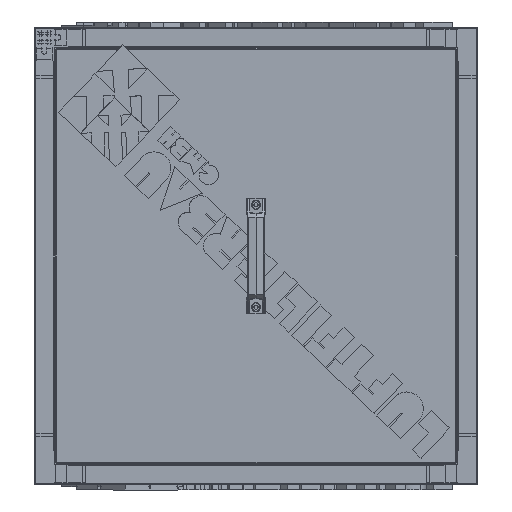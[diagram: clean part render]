
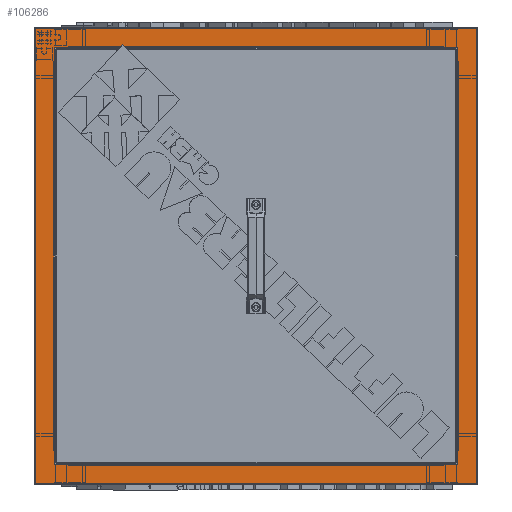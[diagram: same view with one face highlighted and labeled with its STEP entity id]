
A CAD part, front view. The second image highlights one B-rep face of the part: STEP entity #106286.
In plain terms, the highlighted planar face has unit normal (0, -1, 0).
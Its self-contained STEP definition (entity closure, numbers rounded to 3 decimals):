
#5197=FACE_BOUND('',#35395,.T.);
#7515=LINE('',#159254,#18467);
#7523=LINE('',#159272,#18475);
#8281=LINE('',#161285,#19233);
#8282=LINE('',#161287,#19234);
#8283=LINE('',#161289,#19235);
#8284=LINE('',#161290,#19236);
#8285=LINE('',#161292,#19237);
#8286=LINE('',#161294,#19238);
#8287=LINE('',#161296,#19239);
#8288=LINE('',#161298,#19240);
#8289=LINE('',#161300,#19241);
#8290=LINE('',#161302,#19242);
#8291=LINE('',#161304,#19243);
#8292=LINE('',#161306,#19244);
#8293=LINE('',#161308,#19245);
#8294=LINE('',#161310,#19246);
#8295=LINE('',#161312,#19247);
#8296=LINE('',#161314,#19248);
#8297=LINE('',#161316,#19249);
#8298=LINE('',#161318,#19250);
#8299=LINE('',#161320,#19251);
#8300=LINE('',#161322,#19252);
#8301=LINE('',#161324,#19253);
#8302=LINE('',#161326,#19254);
#8303=LINE('',#161328,#19255);
#8304=LINE('',#161330,#19256);
#8305=LINE('',#161331,#19257);
#18467=VECTOR('',#127323,10.);
#18475=VECTOR('',#127335,10.);
#19233=VECTOR('',#128611,10.);
#19234=VECTOR('',#128612,10.);
#19235=VECTOR('',#128613,10.);
#19236=VECTOR('',#128614,10.);
#19237=VECTOR('',#128615,10.);
#19238=VECTOR('',#128616,27.5);
#19239=VECTOR('',#128617,21.);
#19240=VECTOR('',#128618,21.);
#19241=VECTOR('',#128619,27.5);
#19242=VECTOR('',#128620,10.);
#19243=VECTOR('',#128621,27.5);
#19244=VECTOR('',#128622,21.);
#19245=VECTOR('',#128623,21.);
#19246=VECTOR('',#128624,27.5);
#19247=VECTOR('',#128625,10.);
#19248=VECTOR('',#128626,27.5);
#19249=VECTOR('',#128627,21.);
#19250=VECTOR('',#128628,21.);
#19251=VECTOR('',#128629,27.5);
#19252=VECTOR('',#128630,10.);
#19253=VECTOR('',#128631,27.5);
#19254=VECTOR('',#128632,21.);
#19255=VECTOR('',#128633,21.);
#19256=VECTOR('',#128634,27.5);
#19257=VECTOR('',#128635,10.);
#29412=FACE_OUTER_BOUND('',#35394,.T.);
#35394=EDGE_LOOP('',(#73592,#73593,#73594,#73595));
#35395=EDGE_LOOP('',(#73596,#73597,#73598,#73599,#73600,#73601,#73602,#73603,
#73604,#73605,#73606,#73607,#73608,#73609,#73610,#73611,#73612,#73613,#73614,
#73615,#73616,#73617,#73618));
#43043=VERTEX_POINT('',#159252);
#43044=VERTEX_POINT('',#159253);
#43052=VERTEX_POINT('',#159271);
#43591=VERTEX_POINT('',#161283);
#43592=VERTEX_POINT('',#161284);
#43593=VERTEX_POINT('',#161286);
#43594=VERTEX_POINT('',#161288);
#43595=VERTEX_POINT('',#161291);
#43596=VERTEX_POINT('',#161293);
#43597=VERTEX_POINT('',#161295);
#43598=VERTEX_POINT('',#161297);
#43599=VERTEX_POINT('',#161299);
#43600=VERTEX_POINT('',#161301);
#43601=VERTEX_POINT('',#161303);
#43602=VERTEX_POINT('',#161305);
#43603=VERTEX_POINT('',#161307);
#43604=VERTEX_POINT('',#161309);
#43605=VERTEX_POINT('',#161311);
#43606=VERTEX_POINT('',#161313);
#43607=VERTEX_POINT('',#161315);
#43608=VERTEX_POINT('',#161317);
#43609=VERTEX_POINT('',#161319);
#43610=VERTEX_POINT('',#161321);
#43611=VERTEX_POINT('',#161323);
#43612=VERTEX_POINT('',#161325);
#43613=VERTEX_POINT('',#161327);
#43614=VERTEX_POINT('',#161329);
#53669=EDGE_CURVE('',#43043,#43044,#7515,.T.);
#53678=EDGE_CURVE('',#43044,#43052,#7523,.T.);
#54492=EDGE_CURVE('',#43591,#43592,#8281,.T.);
#54493=EDGE_CURVE('',#43593,#43592,#8282,.T.);
#54494=EDGE_CURVE('',#43594,#43593,#8283,.T.);
#54495=EDGE_CURVE('',#43594,#43591,#8284,.T.);
#54496=EDGE_CURVE('',#43595,#43052,#8285,.T.);
#54497=EDGE_CURVE('',#43595,#43596,#8286,.T.);
#54498=EDGE_CURVE('',#43597,#43596,#8287,.T.);
#54499=EDGE_CURVE('',#43598,#43597,#8288,.T.);
#54500=EDGE_CURVE('',#43598,#43599,#8289,.T.);
#54501=EDGE_CURVE('',#43600,#43599,#8290,.T.);
#54502=EDGE_CURVE('',#43600,#43601,#8291,.T.);
#54503=EDGE_CURVE('',#43602,#43601,#8292,.T.);
#54504=EDGE_CURVE('',#43603,#43602,#8293,.T.);
#54505=EDGE_CURVE('',#43604,#43603,#8294,.T.);
#54506=EDGE_CURVE('',#43605,#43604,#8295,.T.);
#54507=EDGE_CURVE('',#43605,#43606,#8296,.T.);
#54508=EDGE_CURVE('',#43607,#43606,#8297,.T.);
#54509=EDGE_CURVE('',#43608,#43607,#8298,.T.);
#54510=EDGE_CURVE('',#43608,#43609,#8299,.T.);
#54511=EDGE_CURVE('',#43610,#43609,#8300,.T.);
#54512=EDGE_CURVE('',#43611,#43610,#8301,.T.);
#54513=EDGE_CURVE('',#43612,#43611,#8302,.T.);
#54514=EDGE_CURVE('',#43613,#43612,#8303,.T.);
#54515=EDGE_CURVE('',#43614,#43613,#8304,.T.);
#54516=EDGE_CURVE('',#43043,#43614,#8305,.T.);
#73592=ORIENTED_EDGE('',*,*,#54492,.T.);
#73593=ORIENTED_EDGE('',*,*,#54493,.F.);
#73594=ORIENTED_EDGE('',*,*,#54494,.F.);
#73595=ORIENTED_EDGE('',*,*,#54495,.T.);
#73596=ORIENTED_EDGE('',*,*,#53669,.T.);
#73597=ORIENTED_EDGE('',*,*,#53678,.T.);
#73598=ORIENTED_EDGE('',*,*,#54496,.F.);
#73599=ORIENTED_EDGE('',*,*,#54497,.T.);
#73600=ORIENTED_EDGE('',*,*,#54498,.F.);
#73601=ORIENTED_EDGE('',*,*,#54499,.F.);
#73602=ORIENTED_EDGE('',*,*,#54500,.T.);
#73603=ORIENTED_EDGE('',*,*,#54501,.F.);
#73604=ORIENTED_EDGE('',*,*,#54502,.T.);
#73605=ORIENTED_EDGE('',*,*,#54503,.F.);
#73606=ORIENTED_EDGE('',*,*,#54504,.F.);
#73607=ORIENTED_EDGE('',*,*,#54505,.F.);
#73608=ORIENTED_EDGE('',*,*,#54506,.F.);
#73609=ORIENTED_EDGE('',*,*,#54507,.T.);
#73610=ORIENTED_EDGE('',*,*,#54508,.F.);
#73611=ORIENTED_EDGE('',*,*,#54509,.F.);
#73612=ORIENTED_EDGE('',*,*,#54510,.T.);
#73613=ORIENTED_EDGE('',*,*,#54511,.F.);
#73614=ORIENTED_EDGE('',*,*,#54512,.F.);
#73615=ORIENTED_EDGE('',*,*,#54513,.F.);
#73616=ORIENTED_EDGE('',*,*,#54514,.F.);
#73617=ORIENTED_EDGE('',*,*,#54515,.F.);
#73618=ORIENTED_EDGE('',*,*,#54516,.F.);
#96682=PLANE('',#113558);
#106286=ADVANCED_FACE('',(#29412,#5197),#96682,.T.);
#113558=AXIS2_PLACEMENT_3D('',#161282,#128609,#128610);
#127323=DIRECTION('',(0.689,0.,0.725));
#127335=DIRECTION('',(0.725,0.,-0.689));
#128609=DIRECTION('center_axis',(0.,-1.,0.));
#128610=DIRECTION('ref_axis',(0.,0.,-1.));
#128611=DIRECTION('',(0.,0.,1.));
#128612=DIRECTION('',(1.,0.,0.));
#128613=DIRECTION('',(0.,0.,1.));
#128614=DIRECTION('',(1.,0.,0.));
#128615=DIRECTION('',(-1.,0.,0.));
#128616=DIRECTION('',(0.,0.,-1.));
#128617=DIRECTION('',(-1.,0.,0.));
#128618=DIRECTION('',(0.,0.,1.));
#128619=DIRECTION('',(1.,0.,0.));
#128620=DIRECTION('',(0.,0.,1.));
#128621=DIRECTION('',(-1.,0.,0.));
#128622=DIRECTION('',(0.,0.,1.));
#128623=DIRECTION('',(1.,0.,0.));
#128624=DIRECTION('',(0.,0.,1.));
#128625=DIRECTION('',(1.,0.,0.));
#128626=DIRECTION('',(0.,0.,1.));
#128627=DIRECTION('',(1.,0.,0.));
#128628=DIRECTION('',(0.,0.,-1.));
#128629=DIRECTION('',(-1.,0.,0.));
#128630=DIRECTION('',(0.,0.,-1.));
#128631=DIRECTION('',(-1.,0.,0.));
#128632=DIRECTION('',(0.,0.,-1.));
#128633=DIRECTION('',(-1.,0.,0.));
#128634=DIRECTION('',(0.,0.,-1.));
#128635=DIRECTION('',(-1.,0.,0.));
#159252=CARTESIAN_POINT('',(-198.509,-335.,639.5));
#159253=CARTESIAN_POINT('',(-195.826,-335.,642.324));
#159254=CARTESIAN_POINT('',(-303.138,-335.,529.347));
#159271=CARTESIAN_POINT('',(-192.856,-335.,639.5));
#159272=CARTESIAN_POINT('',(27.159,-335.,430.265));
#161282=CARTESIAN_POINT('Origin',(0.,-335.,
26.5));
#161283=CARTESIAN_POINT('',(323.5,-335.,-0.5));
#161284=CARTESIAN_POINT('',(323.5,-335.,666.5));
#161285=CARTESIAN_POINT('',(323.5,-335.,333.));
#161286=CARTESIAN_POINT('',(-323.5,-335.,666.5));
#161287=CARTESIAN_POINT('',(0.,-335.,666.5));
#161288=CARTESIAN_POINT('',(-323.5,-335.,-0.5));
#161289=CARTESIAN_POINT('',(-323.5,-335.,333.));
#161290=CARTESIAN_POINT('',(0.,-335.,-0.5));
#161291=CARTESIAN_POINT('',(275.,-335.,639.5));
#161292=CARTESIAN_POINT('',(0.,-335.,639.5));
#161293=CARTESIAN_POINT('',(275.,-335.,639.));
#161294=CARTESIAN_POINT('',(275.,-335.,666.5));
#161295=CARTESIAN_POINT('',(296.,-335.,639.));
#161296=CARTESIAN_POINT('',(296.,-335.,639.));
#161297=CARTESIAN_POINT('',(296.,-335.,618.));
#161298=CARTESIAN_POINT('',(296.,-335.,618.));
#161299=CARTESIAN_POINT('',(296.5,-335.,618.));
#161300=CARTESIAN_POINT('',(296.,-335.,618.));
#161301=CARTESIAN_POINT('',(296.5,-335.,48.));
#161302=CARTESIAN_POINT('',(296.5,-335.,333.));
#161303=CARTESIAN_POINT('',(296.,-335.,48.));
#161304=CARTESIAN_POINT('',(323.5,-335.,48.));
#161305=CARTESIAN_POINT('',(296.,-335.,27.));
#161306=CARTESIAN_POINT('',(296.,-335.,27.));
#161307=CARTESIAN_POINT('',(275.,-335.,27.));
#161308=CARTESIAN_POINT('',(275.,-335.,27.));
#161309=CARTESIAN_POINT('',(275.,-335.,26.5));
#161310=CARTESIAN_POINT('',(275.,-335.,-0.5));
#161311=CARTESIAN_POINT('',(-275.,-335.,26.5));
#161312=CARTESIAN_POINT('',(0.,-335.,26.5));
#161313=CARTESIAN_POINT('',(-275.,-335.,27.));
#161314=CARTESIAN_POINT('',(-275.,-335.,-0.5));
#161315=CARTESIAN_POINT('',(-296.,-335.,27.));
#161316=CARTESIAN_POINT('',(-296.,-335.,27.));
#161317=CARTESIAN_POINT('',(-296.,-335.,48.));
#161318=CARTESIAN_POINT('',(-296.,-335.,48.));
#161319=CARTESIAN_POINT('',(-296.5,-335.,48.));
#161320=CARTESIAN_POINT('',(-296.,-335.,48.));
#161321=CARTESIAN_POINT('',(-296.5,-335.,618.));
#161322=CARTESIAN_POINT('',(-296.5,-335.,333.));
#161323=CARTESIAN_POINT('',(-296.,-335.,618.));
#161324=CARTESIAN_POINT('',(-296.,-335.,618.));
#161325=CARTESIAN_POINT('',(-296.,-335.,639.));
#161326=CARTESIAN_POINT('',(-296.,-335.,639.));
#161327=CARTESIAN_POINT('',(-275.,-335.,639.));
#161328=CARTESIAN_POINT('',(-275.,-335.,639.));
#161329=CARTESIAN_POINT('',(-275.,-335.,639.5));
#161330=CARTESIAN_POINT('',(-275.,-335.,666.5));
#161331=CARTESIAN_POINT('',(0.,-335.,639.5));
